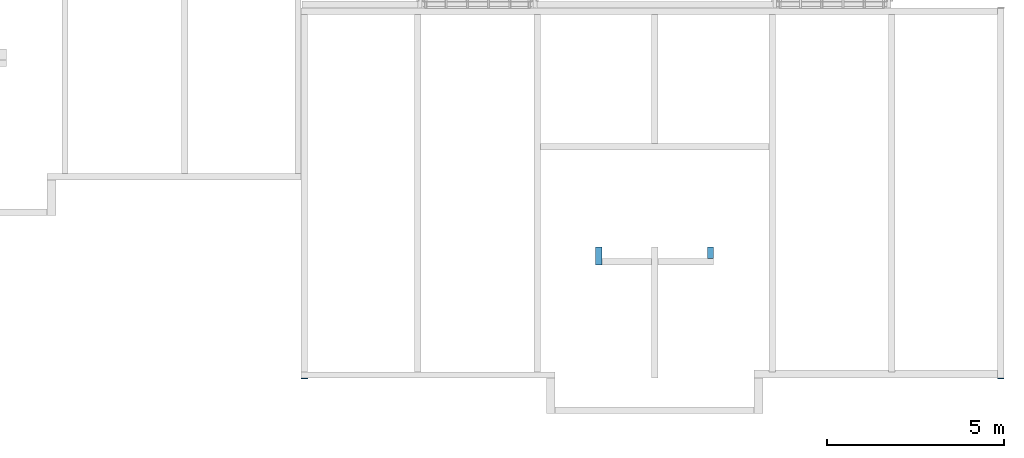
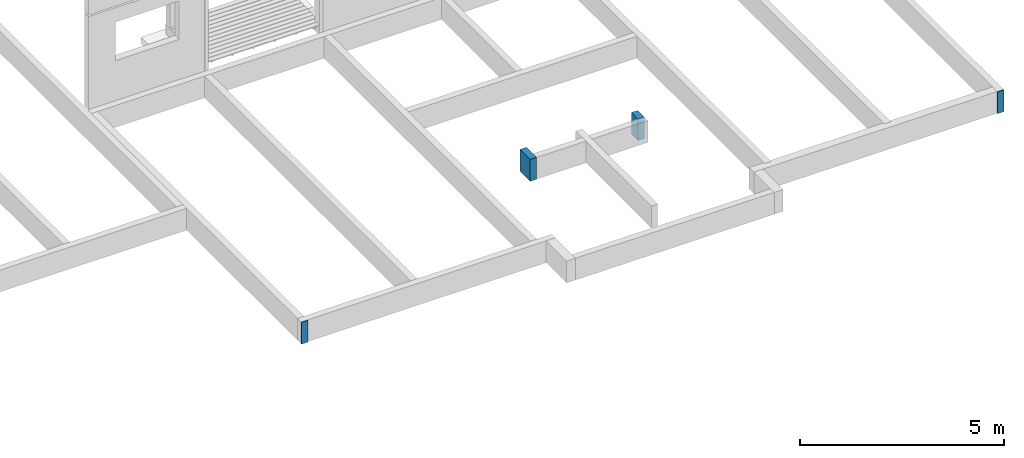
# One storey, part 5 of 182: 4 walls.
"""IFC2X3 building model written with IfcOpenShell, lengths in metres."""

from ifc_helpers import new_model, si_unit, frame, frame_2d, origin, origin_with_axes, place, context, project, spatial, rectangle, extrude, element, save


model = new_model("IFC2X3")

# Units and contexts
model_context = context("Model", 3, precision=1e-06, world=origin())
ifc_project = project(units=[si_unit("LENGTHUNIT", "METRE"), si_unit("PLANEANGLEUNIT", "RADIAN")], contexts=[model_context])

# Site, building, storey
site = spatial("IfcSite", under=ifc_project, CompositionType="ELEMENT")
building = spatial("IfcBuilding", under=site, CompositionType="ELEMENT")
storey = spatial("IfcBuildingStorey", under=building, Name="vs", CompositionType="ELEMENT", Elevation=-0.85)

# Walls
placement = place(None, origin())
wall_1_placement = place(placement, frame((39.69999999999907, -5.579922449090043, -0.85), z_axis=(0.0, 0.0, 1.0), x_axis=(1.0, 0.0, 0.0)))
element("IfcWall", 1, at=wall_1_placement, inside=storey, context=model_context, shape_type="SweptSolid", body=[
    extrude(rectangle(XDim=0.18, YDim=0.020077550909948, at=frame_2d((0.09, 0.010038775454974), x_axis=(1.0, 0.0)), kind="CURVE"), frame((0.0, -0.020077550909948, 0.0), z_axis=(0.0, 0.0, 1.0), x_axis=(1.0, 0.0, 0.0)), (0.0, 0.0, 1.0), 0.65),
])
wall_2_placement = place(placement, frame((51.169999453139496, -1.879922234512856, -0.85), z_axis=(0.0, 0.0, 1.0), x_axis=(0.0, -1.0, 0.0)))
element("IfcWall", 2, at=wall_2_placement, inside=storey, context=model_context, shape_type="SweptSolid", body=[
    extrude(rectangle(XDim=0.32, YDim=0.18, at=frame_2d((0.16, 0.09), x_axis=(1.0, 0.0)), kind="CURVE"), origin_with_axes(), (0.0, 0.0, 1.0), 0.65),
])
wall_3_placement = place(placement, frame((48.199999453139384, -2.379922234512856, -0.85), z_axis=(0.0, 0.0, 1.0), x_axis=(0.0, 1.0, 0.0)))
element("IfcWall", 3, at=wall_3_placement, inside=storey, context=model_context, shape_type="SweptSolid", body=[
    extrude(rectangle(XDim=0.5, YDim=0.18, at=frame_2d((0.25, 0.09), x_axis=(1.0, 0.0)), kind="CURVE"), origin_with_axes(), (0.0, 0.0, 1.0), 0.65),
])
wall_4_placement = place(placement, frame((59.549999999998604, -5.599999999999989, -0.85), z_axis=(0.0, 0.0, 1.0), x_axis=(-1.0, 0.0, 0.0)))
element("IfcWall", 4, at=wall_4_placement, inside=storey, context=model_context, shape_type="SweptSolid", body=[
    extrude(rectangle(XDim=0.18, YDim=0.020162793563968, at=frame_2d((0.09, 0.010081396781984), x_axis=(1.0, 0.0)), kind="CURVE"), frame((0.0, -0.020162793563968, 0.0), z_axis=(0.0, 0.0, 1.0), x_axis=(1.0, 0.0, 0.0)), (0.0, 0.0, 1.0), 0.65),
])

save(model, "model.ifc")
